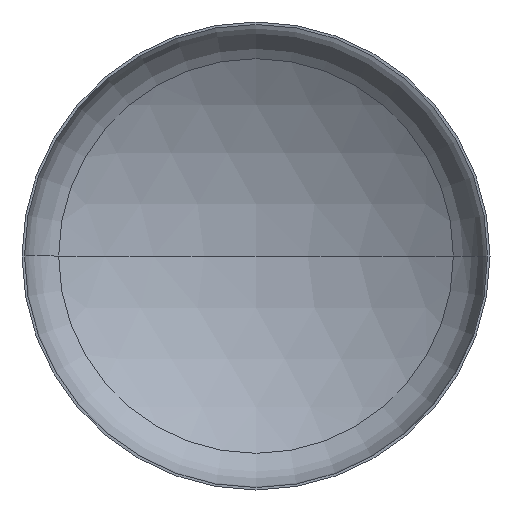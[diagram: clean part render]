
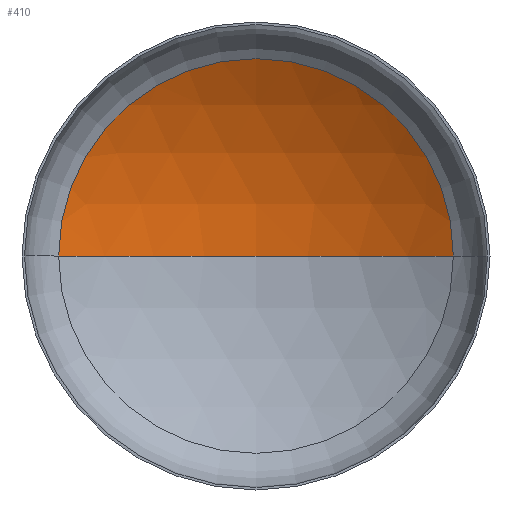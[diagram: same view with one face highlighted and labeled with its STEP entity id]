
A CAD part, front view. The second image highlights one B-rep face of the part: STEP entity #410.
In plain terms, the highlighted spherical face has radius 2720 mm.
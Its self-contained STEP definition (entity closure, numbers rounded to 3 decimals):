
#1 = AXIS2_PLACEMENT_3D ( 'NONE', #180, #367, #203 ) ;
#6 = AXIS2_PLACEMENT_3D ( 'NONE', #284, #121, #312 ) ;
#7 = AXIS2_PLACEMENT_3D ( 'NONE', #32, #397, #317 ) ;
#22 = CARTESIAN_POINT ( 'NONE',  ( -1433.731, 501.144, 0. ) ) ;
#32 = CARTESIAN_POINT ( 'NONE',  ( 0., -1810.309, 0. ) ) ;
#37 = AXIS2_PLACEMENT_3D ( 'NONE', #112, #170, #169 ) ;
#43 = VERTEX_POINT ( 'NONE', #53 ) ;
#53 = CARTESIAN_POINT ( 'NONE',  ( 1433.731, 501.144, 0. ) ) ;
#80 = EDGE_CURVE ( 'NONE', #43, #360, #83, .T. ) ;
#83 = CIRCLE ( 'NONE', #37, 1433.731 ) ;
#95 = VERTEX_POINT ( 'NONE', #136 ) ;
#112 = CARTESIAN_POINT ( 'NONE',  ( 0., 501.144, 0. ) ) ;
#121 = DIRECTION ( 'NONE',  ( 0., 0., -1. ) ) ;
#136 = CARTESIAN_POINT ( 'NONE',  ( 0., 909.691, 0. ) ) ;
#169 = DIRECTION ( 'NONE',  ( 1., 0., 0. ) ) ;
#170 = DIRECTION ( 'NONE',  ( 0., -1., 0. ) ) ;
#172 = SPHERICAL_SURFACE ( 'NONE', #7, 2720. ) ;
#173 = ORIENTED_EDGE ( 'NONE', *, *, #333, .T. ) ;
#180 = CARTESIAN_POINT ( 'NONE',  ( 0., -1810.309, 0. ) ) ;
#203 = DIRECTION ( 'NONE',  ( 1., 0., 0. ) ) ;
#227 = ORIENTED_EDGE ( 'NONE', *, *, #80, .T. ) ;
#260 = CIRCLE ( 'NONE', #1, 2720. ) ;
#269 = ORIENTED_EDGE ( 'NONE', *, *, #334, .F. ) ;
#284 = CARTESIAN_POINT ( 'NONE',  ( 0., -1810.309, 0. ) ) ;
#297 = EDGE_LOOP ( 'NONE', ( #269, #173, #227 ) ) ;
#312 = DIRECTION ( 'NONE',  ( -1., 0., 0. ) ) ;
#317 = DIRECTION ( 'NONE',  ( -1., 0., 0. ) ) ;
#333 = EDGE_CURVE ( 'NONE', #95, #43, #335, .T. ) ;
#334 = EDGE_CURVE ( 'NONE', #95, #360, #260, .T. ) ;
#335 = CIRCLE ( 'NONE', #6, 2720. ) ;
#360 = VERTEX_POINT ( 'NONE', #22 ) ;
#367 = DIRECTION ( 'NONE',  ( 0., 0., 1. ) ) ;
#388 = FACE_OUTER_BOUND ( 'NONE', #297, .T. ) ;
#397 = DIRECTION ( 'NONE',  ( 0., 0., -1. ) ) ;
#410 = ADVANCED_FACE ( 'NONE', ( #388 ), #172, .F. ) ;
